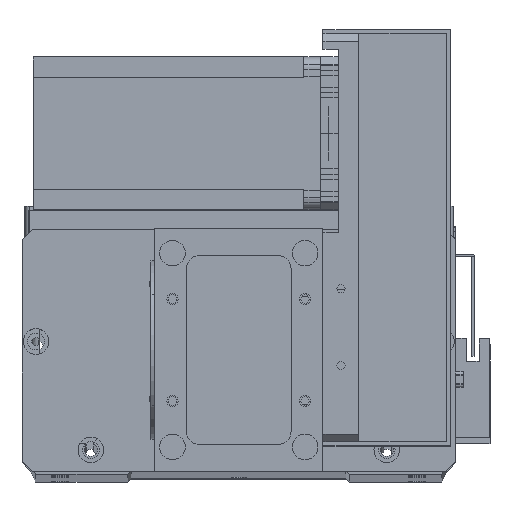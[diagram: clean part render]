
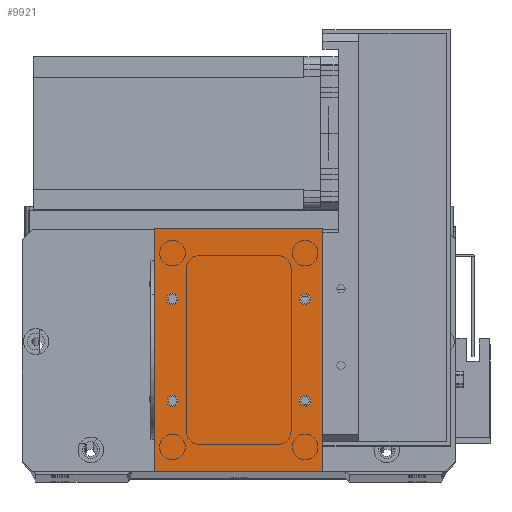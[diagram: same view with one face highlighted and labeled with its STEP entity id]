
A CAD part, top view. The second image highlights one B-rep face of the part: STEP entity #9921.
In plain terms, the highlighted planar face has unit normal (0, 0, 1).
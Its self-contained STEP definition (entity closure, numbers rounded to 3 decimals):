
#161 = ORIENTED_EDGE ( 'NONE', *, *, #31713, .T. ) ;
#193 = EDGE_CURVE ( 'NONE', #16529, #3672, #19695, .T. ) ;
#353 = DIRECTION ( 'NONE',  ( 0., 1., 0. ) ) ;
#478 = VERTEX_POINT ( 'NONE', #13774 ) ;
#635 = CARTESIAN_POINT ( 'NONE',  ( 0., 95., 2. ) ) ;
#1083 = DIRECTION ( 'NONE',  ( 1., 0., 0. ) ) ;
#1115 = EDGE_CURVE ( 'NONE', #7927, #19693, #9380, .T. ) ;
#1274 = CARTESIAN_POINT ( 'NONE',  ( 7., 27.5, 2. ) ) ;
#1862 = CIRCLE ( 'NONE', #19643, 2.25 ) ;
#3672 = VERTEX_POINT ( 'NONE', #635 ) ;
#3720 = FACE_BOUND ( 'NONE', #10325, .T. ) ;
#3812 = DIRECTION ( 'NONE',  ( 1., 0., 0. ) ) ;
#3887 = ORIENTED_EDGE ( 'NONE', *, *, #26211, .F. ) ;
#3993 = VERTEX_POINT ( 'NONE', #19910 ) ;
#4227 = ORIENTED_EDGE ( 'NONE', *, *, #7598, .F. ) ;
#4425 = CIRCLE ( 'NONE', #27939, 2.25 ) ;
#4533 = VERTEX_POINT ( 'NONE', #18441 ) ;
#5023 = EDGE_CURVE ( 'NONE', #20038, #10264, #25362, .T. ) ;
#5087 = EDGE_CURVE ( 'NONE', #25050, #478, #4425, .T. ) ;
#5494 = DIRECTION ( 'NONE',  ( 1., 0., 0. ) ) ;
#5568 = CARTESIAN_POINT ( 'NONE',  ( 0., 0., 2. ) ) ;
#5715 = DIRECTION ( 'NONE',  ( -1., 0., 0. ) ) ;
#6368 = EDGE_LOOP ( 'NONE', ( #21692, #10633, #161, #13513 ) ) ;
#6430 = EDGE_CURVE ( 'NONE', #10264, #20038, #9890, .T. ) ;
#6903 = ORIENTED_EDGE ( 'NONE', *, *, #5023, .F. ) ;
#7166 = CARTESIAN_POINT ( 'NONE',  ( 4.75, 67.5, 2. ) ) ;
#7598 = EDGE_CURVE ( 'NONE', #478, #25050, #20085, .T. ) ;
#7637 = EDGE_LOOP ( 'NONE', ( #6903, #20651 ) ) ;
#7927 = VERTEX_POINT ( 'NONE', #17067 ) ;
#7964 = CARTESIAN_POINT ( 'NONE',  ( 7., 67.5, 2. ) ) ;
#7978 = CARTESIAN_POINT ( 'NONE',  ( 66., 0., 2. ) ) ;
#8053 = CARTESIAN_POINT ( 'NONE',  ( 0., 0., 2. ) ) ;
#8130 = DIRECTION ( 'NONE',  ( 0., 0., -1. ) ) ;
#8619 = CIRCLE ( 'NONE', #9653, 2.25 ) ;
#9226 = EDGE_LOOP ( 'NONE', ( #27279, #3887 ) ) ;
#9380 = CIRCLE ( 'NONE', #24297, 2.25 ) ;
#9623 = VERTEX_POINT ( 'NONE', #16964 ) ;
#9653 = AXIS2_PLACEMENT_3D ( 'NONE', #11972, #29649, #14509 ) ;
#9685 = FACE_OUTER_BOUND ( 'NONE', #6368, .T. ) ;
#9890 = CIRCLE ( 'NONE', #19725, 2.25 ) ;
#9921 = ADVANCED_FACE ( 'NONE', ( #23086, #3720, #17155, #16384, #9685 ), #30753, .F. ) ;
#9926 = LINE ( 'NONE', #7978, #15042 ) ;
#10152 = DIRECTION ( 'NONE',  ( 0., 0., 1. ) ) ;
#10264 = VERTEX_POINT ( 'NONE', #20352 ) ;
#10325 = EDGE_LOOP ( 'NONE', ( #20062, #30391 ) ) ;
#10507 = DIRECTION ( 'NONE',  ( 1., 0., 0. ) ) ;
#10633 = ORIENTED_EDGE ( 'NONE', *, *, #26875, .T. ) ;
#10720 = AXIS2_PLACEMENT_3D ( 'NONE', #12734, #30396, #15280 ) ;
#11470 = DIRECTION ( 'NONE',  ( 0., -1., 0. ) ) ;
#11972 = CARTESIAN_POINT ( 'NONE',  ( 59., 27.5, 2. ) ) ;
#12729 = CARTESIAN_POINT ( 'NONE',  ( 7., 27.5, 2. ) ) ;
#12734 = CARTESIAN_POINT ( 'NONE',  ( 59., 67.5, 2. ) ) ;
#13293 = CARTESIAN_POINT ( 'NONE',  ( 0., 0., 2. ) ) ;
#13513 = ORIENTED_EDGE ( 'NONE', *, *, #193, .T. ) ;
#13774 = CARTESIAN_POINT ( 'NONE',  ( 9.25, 67.5, 2. ) ) ;
#13912 = EDGE_LOOP ( 'NONE', ( #4227, #18490 ) ) ;
#14408 = AXIS2_PLACEMENT_3D ( 'NONE', #12729, #30394, #15271 ) ;
#14509 = DIRECTION ( 'NONE',  ( 1., 0., 0. ) ) ;
#14868 = LINE ( 'NONE', #8053, #27511 ) ;
#15042 = VECTOR ( 'NONE', #353, 1000. ) ;
#15271 = DIRECTION ( 'NONE',  ( 1., 0., 0. ) ) ;
#15280 = DIRECTION ( 'NONE',  ( 1., 0., 0. ) ) ;
#15938 = EDGE_CURVE ( 'NONE', #3672, #9623, #25863, .T. ) ;
#16045 = CARTESIAN_POINT ( 'NONE',  ( 61.25, 27.5, 2. ) ) ;
#16222 = DIRECTION ( 'NONE',  ( 0., 0., 1. ) ) ;
#16384 = FACE_BOUND ( 'NONE', #7637, .T. ) ;
#16529 = VERTEX_POINT ( 'NONE', #24030 ) ;
#16964 = CARTESIAN_POINT ( 'NONE',  ( 0., 0., 2. ) ) ;
#17067 = CARTESIAN_POINT ( 'NONE',  ( 56.75, 67.5, 2. ) ) ;
#17155 = FACE_BOUND ( 'NONE', #9226, .T. ) ;
#18100 = AXIS2_PLACEMENT_3D ( 'NONE', #5568, #8130, #25796 ) ;
#18303 = CARTESIAN_POINT ( 'NONE',  ( 0., 95., 2. ) ) ;
#18441 = CARTESIAN_POINT ( 'NONE',  ( 66., 0., 2. ) ) ;
#18490 = ORIENTED_EDGE ( 'NONE', *, *, #5087, .F. ) ;
#18942 = DIRECTION ( 'NONE',  ( 0., 0., 1. ) ) ;
#19142 = VECTOR ( 'NONE', #11470, 1000. ) ;
#19643 = AXIS2_PLACEMENT_3D ( 'NONE', #25278, #10152, #27826 ) ;
#19660 = EDGE_CURVE ( 'NONE', #19693, #7927, #20888, .T. ) ;
#19693 = VERTEX_POINT ( 'NONE', #20460 ) ;
#19695 = LINE ( 'NONE', #18303, #25602 ) ;
#19725 = AXIS2_PLACEMENT_3D ( 'NONE', #1274, #18942, #3812 ) ;
#19910 = CARTESIAN_POINT ( 'NONE',  ( 56.75, 27.5, 2. ) ) ;
#20038 = VERTEX_POINT ( 'NONE', #21782 ) ;
#20062 = ORIENTED_EDGE ( 'NONE', *, *, #19660, .F. ) ;
#20085 = CIRCLE ( 'NONE', #28429, 2.25 ) ;
#20281 = EDGE_CURVE ( 'NONE', #26576, #3993, #1862, .T. ) ;
#20352 = CARTESIAN_POINT ( 'NONE',  ( 4.75, 27.5, 2. ) ) ;
#20460 = CARTESIAN_POINT ( 'NONE',  ( 61.25, 67.5, 2. ) ) ;
#20651 = ORIENTED_EDGE ( 'NONE', *, *, #6430, .F. ) ;
#20888 = CIRCLE ( 'NONE', #10720, 2.25 ) ;
#21692 = ORIENTED_EDGE ( 'NONE', *, *, #15938, .T. ) ;
#21782 = CARTESIAN_POINT ( 'NONE',  ( 9.25, 27.5, 2. ) ) ;
#23086 = FACE_BOUND ( 'NONE', #13912, .T. ) ;
#24030 = CARTESIAN_POINT ( 'NONE',  ( 66., 95., 2. ) ) ;
#24297 = AXIS2_PLACEMENT_3D ( 'NONE', #24941, #24830, #24626 ) ;
#24626 = DIRECTION ( 'NONE',  ( 1., 0., 0. ) ) ;
#24830 = DIRECTION ( 'NONE',  ( 0., 0., 1. ) ) ;
#24941 = CARTESIAN_POINT ( 'NONE',  ( 59., 67.5, 2. ) ) ;
#25050 = VERTEX_POINT ( 'NONE', #7166 ) ;
#25278 = CARTESIAN_POINT ( 'NONE',  ( 59., 27.5, 2. ) ) ;
#25362 = CIRCLE ( 'NONE', #14408, 2.25 ) ;
#25602 = VECTOR ( 'NONE', #5715, 1000. ) ;
#25638 = DIRECTION ( 'NONE',  ( 0., 0., 1. ) ) ;
#25796 = DIRECTION ( 'NONE',  ( -1., 0., 0. ) ) ;
#25863 = LINE ( 'NONE', #13293, #19142 ) ;
#26211 = EDGE_CURVE ( 'NONE', #3993, #26576, #8619, .T. ) ;
#26576 = VERTEX_POINT ( 'NONE', #16045 ) ;
#26875 = EDGE_CURVE ( 'NONE', #9623, #4533, #14868, .T. ) ;
#27279 = ORIENTED_EDGE ( 'NONE', *, *, #20281, .F. ) ;
#27511 = VECTOR ( 'NONE', #5494, 1000. ) ;
#27826 = DIRECTION ( 'NONE',  ( 1., 0., 0. ) ) ;
#27939 = AXIS2_PLACEMENT_3D ( 'NONE', #7964, #25638, #10507 ) ;
#28429 = AXIS2_PLACEMENT_3D ( 'NONE', #31324, #16222, #1083 ) ;
#29649 = DIRECTION ( 'NONE',  ( 0., 0., 1. ) ) ;
#30391 = ORIENTED_EDGE ( 'NONE', *, *, #1115, .F. ) ;
#30394 = DIRECTION ( 'NONE',  ( 0., 0., 1. ) ) ;
#30396 = DIRECTION ( 'NONE',  ( 0., 0., 1. ) ) ;
#30753 = PLANE ( 'NONE',  #18100 ) ;
#31324 = CARTESIAN_POINT ( 'NONE',  ( 7., 67.5, 2. ) ) ;
#31713 = EDGE_CURVE ( 'NONE', #4533, #16529, #9926, .T. ) ;
